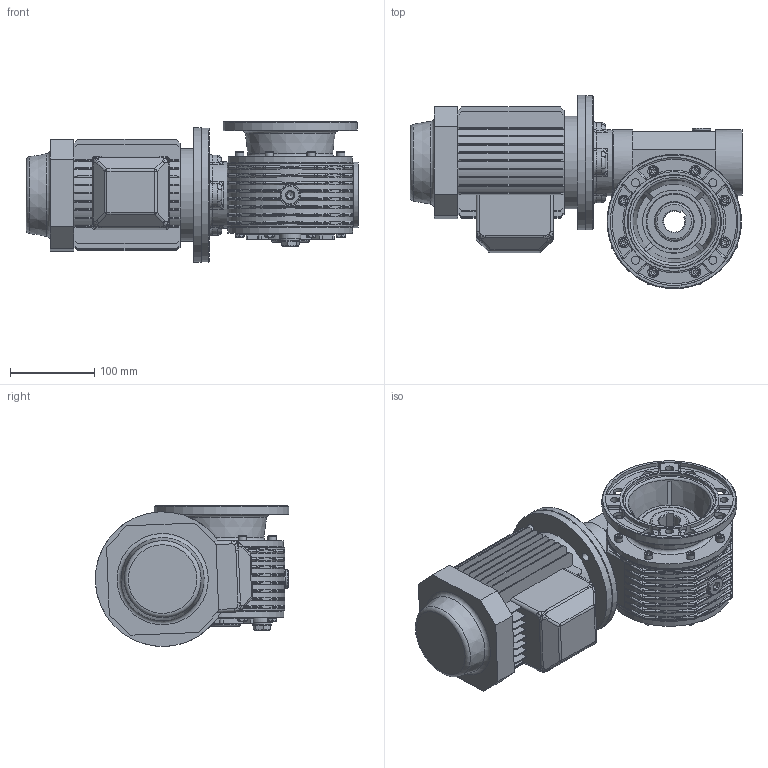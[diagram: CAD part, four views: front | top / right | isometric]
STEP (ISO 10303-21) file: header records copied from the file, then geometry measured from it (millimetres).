
FILE_DESCRIPTION((''),'2;1');
FILE_NAME('Y:\Archivi Inventor\Prog_01\GRAND_30\Figurini\MRV30 sito\71\MRV30_F1_71_B5.stp','2013-02-06T09:09:56',('tech3'),(''),'Autodesk Inventor 2013','Autodesk Inventor 2013','');
FILE_SCHEMA(('AUTOMOTIVE_DESIGN { 1 0 10303 214 1 1 1 1 }'));
Length unit declared in the file: millimetre
Products named in the file (18): MRV30_71_B5; MRV30; 0103001-A2 fig; 0103008.A1 fig F=25; PARAOLIO 45x65x10; RCA_52x7; Guarnizione 3_8 GAS; Tappo 3_8 GAS_esagn_incsst; 0103029; DIN EN 24017 M6 x 20; 0103028; 0103002-A0 fig; 0103003.A0 fig; DIN EN ISO 4762 M6 x 16; Tappo3_8 GAS; UNI 5931 M 8 x  25; 0103006; motori B5 71
Assembly tree (39 placements, depth 3):
  MRV30_71_B5
    MRV30
      0103001-A2 fig
      0103008.A1 fig F=25
      PARAOLIO 45x65x10  x2
      RCA_52x7
      Guarnizione 3_8 GAS  x3
      Tappo 3_8 GAS_esagn_incsst  x2
      0103029  x2
      DIN EN 24017 M6 x 20  x8
      0103028
      0103002-A0 fig
      0103003.A0 fig
      DIN EN ISO 4762 M6 x 16  x8
      Tappo3_8 GAS
      UNI 5931 M 8 x  25  x4
    0103006
    motori B5 71
Bounding box: 394.4 x 229.63 x 167.29 mm (x, y, z)
Volume: 4831498.1 mm3; surface area: 731880.5 mm2
Topology: 38 solids, 41 shells, 2057 faces, 4993 edges, 2993 vertices
Faces by surface type: plane 938, cylinder 628, torus 197, bspline 134, cone 120, sphere 40
Full cylindrical faces by diameter (mm): 2 x2, 4.917 x16, 6 x16, 6.5 x24, 6.647 x4, 7 x8, 8 x6, 8.5 x8, 8.88 x8, 9.5 x4, 10 x12, 11 x8, 13 x12, 13.046 x1, 14 x1, 14.95 x3, 16.3 x3, 16.5 x2, 22 x6, 25 x1, 43 x1, 45 x6, 45.76 x1, 50.881 x2, 52 x6, 55 x1, 60.5 x2, 65 x4, 77 x1, 78 x1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
Entity records: 58132 total; most frequent: CARTESIAN_POINT 17793, DIRECTION 8528, ORIENTED_EDGE 7876, EDGE_CURVE 3938, AXIS2_PLACEMENT_3D 3354, VERTEX_POINT 2507, EDGE_LOOP 2110, VECTOR 1820
